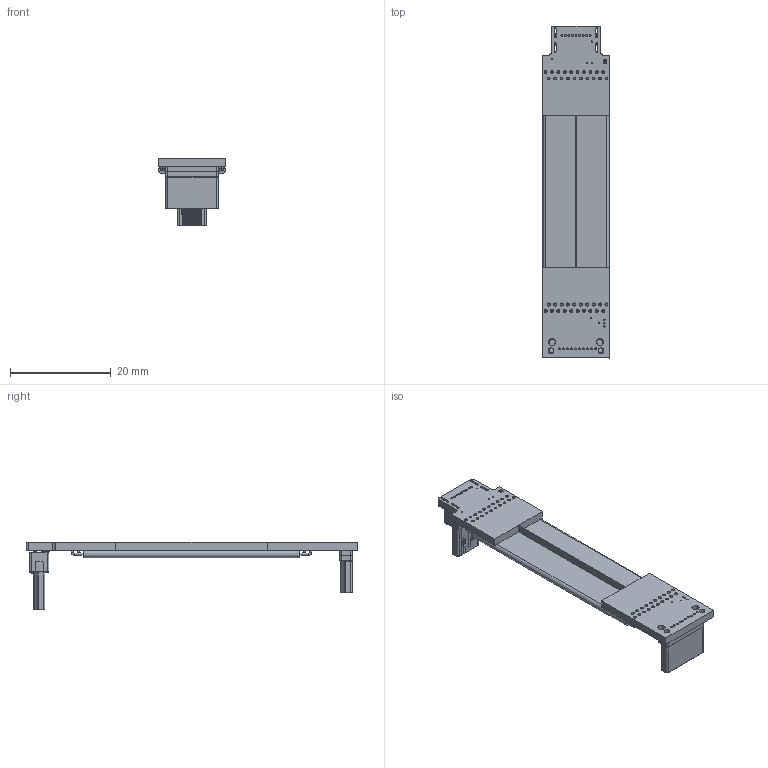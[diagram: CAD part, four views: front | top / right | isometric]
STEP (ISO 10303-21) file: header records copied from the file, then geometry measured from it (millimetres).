
FILE_DESCRIPTION(('Open CASCADE Model'),'2;1');
FILE_NAME('Open CASCADE Shape Model','2022-06-09T23:48:23',('Author'),( 'Open CASCADE'),'Open CASCADE STEP processor 6.8','Open CASCADE 6.8' ,'Unknown');
FILE_SCHEMA(('AUTOMOTIVE_DESIGN { 1 0 10303 214 1 1 1 1 }'));
Length unit declared in the file: millimetre
Products named in the file (71): PCB; Board; Open CASCADE STEP translator 6.8 10.1.1; _1; HDMI_MICRO_D(M)(1); Open CASCADE STEP translator 6.8 10.3; HDMI_type_C1; miniHDMI-p_RGB10275833; Free-Models; cable20-A1A1
Assembly tree (71 placements, depth 3):
  PCB
    Board
      Open CASCADE STEP translator 6.8 10.1.1
    _1
      HDMI_MICRO_D(M)(1)
      HDMI_MICRO_D(M)(1)
      HDMI_MICRO_D(M)(1)
      HDMI_MICRO_D(M)(1)
      HDMI_MICRO_D(M)(1)
      HDMI_MICRO_D(M)(1)
      HDMI_MICRO_D(M)(1)
      HDMI_MICRO_D(M)(1)
      HDMI_MICRO_D(M)(1)
      HDMI_MICRO_D(M)(1)
      HDMI_MICRO_D(M)(1)
      HDMI_MICRO_D(M)(1)
      HDMI_MICRO_D(M)(1)
      HDMI_MICRO_D(M)(1)
      HDMI_MICRO_D(M)(1)
      HDMI_MICRO_D(M)(1)
      HDMI_MICRO_D(M)(1)
      HDMI_MICRO_D(M)(1)
      HDMI_MICRO_D(M)(1)
      HDMI_MICRO_D(M)(1)
      HDMI_MICRO_D(M)(1)
      HDMI_MICRO_D(M)(1)
    Open CASCADE STEP translator 6.8 10.3
      HDMI_type_C1
      miniHDMI-p_RGB10275833  x2
    Free-Models
      cable20-A1A1
      cable20-A1A1
      cable20-A1A1
      cable20-A1A1
      cable20-A1A1
      cable20-A1A1
      cable20-A1A1
      cable20-A1A1
      cable20-A1A1
      cable20-A1A1
      cable20-A1A1
      cable20-A1A1
      cable20-A1A1
      cable20-A1A1
      cable20-A1A1
      cable20-A1A1
      cable20-A1A1
      cable20-A1A1
      cable20-A1A1
      cable20-A1A1
      cable20-A1A1
      cable20-A1A1
      cable20-A1A1
      cable20-A1A1
      cable20-A1A1
      cable20-A1A1
      cable20-A1A1
      cable20-A1A1
      cable20-A1A1
      cable20-A1A1
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Bounding box: 13.4 x 65.81 x 13.3 mm (x, y, z)
Volume: 1731 mm3; surface area: 5227.9 mm2
Topology: 67 solids, 67 shells, 953 faces, 2361 edges, 1542 vertices
Faces by surface type: plane 604, cylinder 299, torus 46, extrusion 4
Full cylindrical faces by diameter (mm): 0.254 x13, 0.38 x9, 0.4 x110, 0.55 x20, 0.6 x20, 1.1 x2, 1.4 x2
Entity records: 37131 total; most frequent: CARTESIAN_POINT 5254, DIRECTION 4817, ORIENTED_EDGE 4674, EDGE_CURVE 2337, AXIS2_PLACEMENT_3D 1613, VECTOR 1591, LINE 1587, VERTEX_POINT 1526
